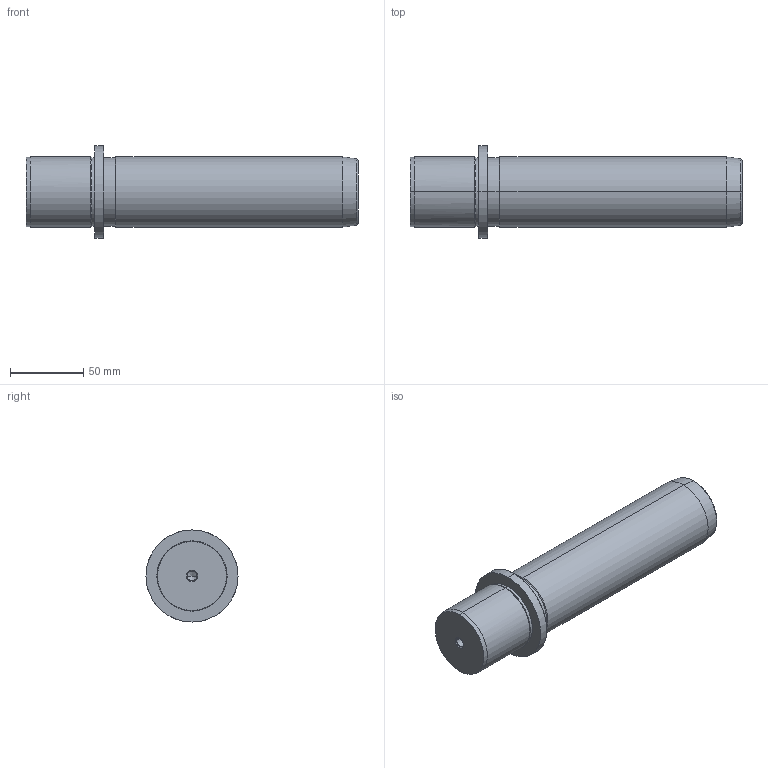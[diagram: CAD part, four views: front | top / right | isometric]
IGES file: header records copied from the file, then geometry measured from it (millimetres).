
Start section: START RECORD GO HERE.
Global section: file name: 718-48x180.igs; native system: DASSAULT SYSTEMES CATIA V5 R20 - www.3ds.com; preprocessor: CATIA Version 5 Release 20 ; author: Utente; organization: NB04-ASUS; date: 20210102.133504; units: millimetre
Bounding box: 227 x 63 x 63 mm (x, y, z)
Surface area: 41556.6 mm2 (no closed solid volume)
Topology: 0 solids, 0 shells, 36 faces, 196 edges, 192 vertices
Faces by surface type: revolution 32, plane 4
